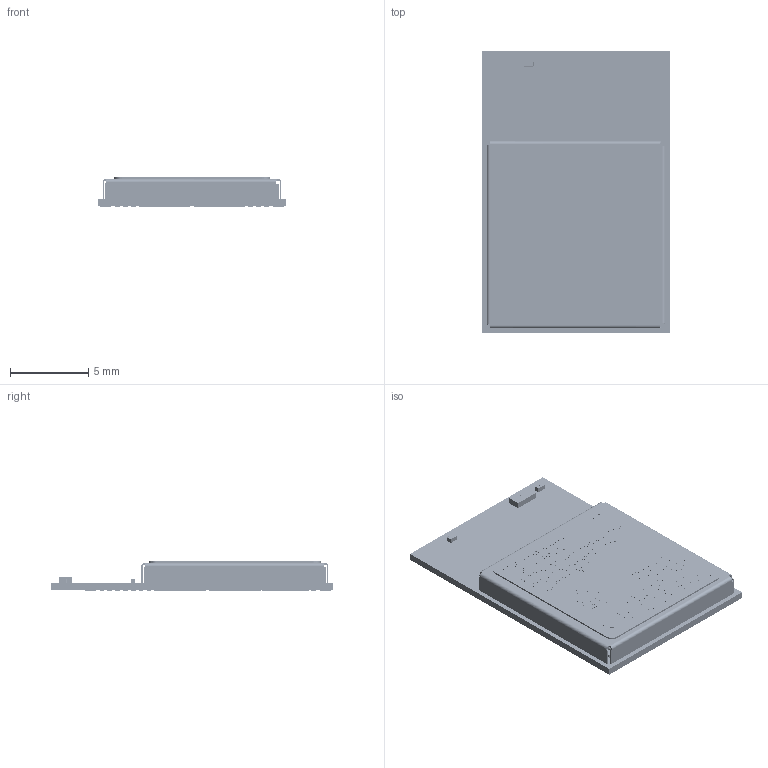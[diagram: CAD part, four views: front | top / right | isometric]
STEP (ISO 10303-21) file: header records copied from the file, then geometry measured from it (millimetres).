
FILE_DESCRIPTION (( 'STEP AP214' ), '1' );
FILE_NAME ('453-00180.STEP', '2026-05-25T10:34:13', ( '' ), ( '' ), 'SwSTEP 2.0', 'SolidWorks 2025', '' );
FILE_SCHEMA (( 'AUTOMOTIVE_DESIGN' ));
Length unit declared in the file: millimetre
Products named in the file (3): 160-02405; 453-00180; 940-00315-11117572
Assembly tree (2 placements, depth 2):
  453-00180
    940-00315-11117572
    160-02405
Bounding box: 12 x 18 x 1.86 mm (x, y, z)
Volume: 10.8 mm3; surface area: 1519.4 mm2
Topology: 1 solids, 1111 shells, 15842 faces, 41953 edges, 27721 vertices
Faces by surface type: plane 6827, cylinder 6570, bspline 1517, sphere 904, torus 24
Entity records: 695641 total; most frequent: CARTESIAN_POINT 125988, ORIENTED_EDGE 80984, DIRECTION 80877, EDGE_CURVE 41797, AXIS2_PLACEMENT_3D 28265, VERTEX_POINT 27685, VECTOR 24347, LINE 24347
